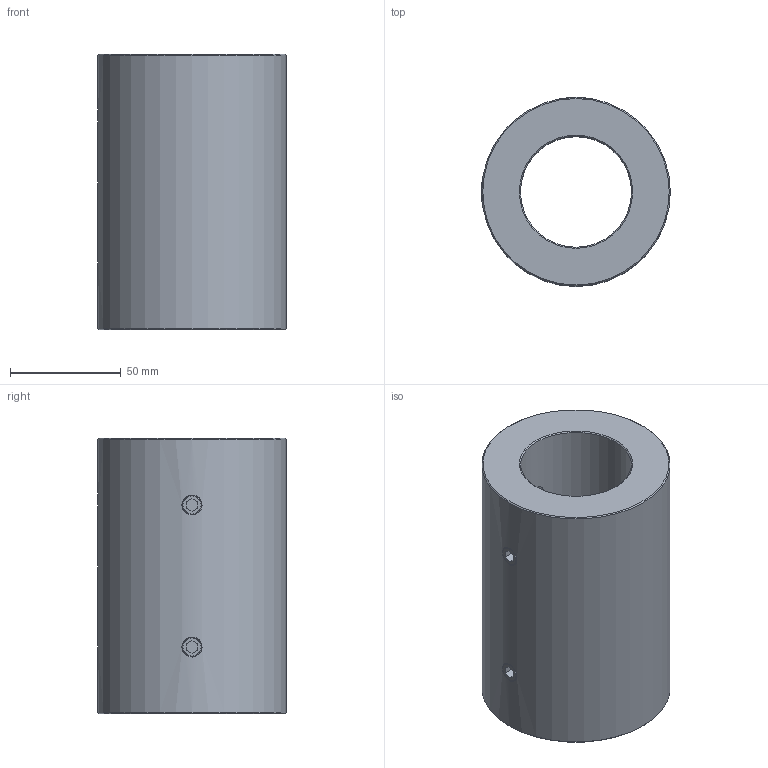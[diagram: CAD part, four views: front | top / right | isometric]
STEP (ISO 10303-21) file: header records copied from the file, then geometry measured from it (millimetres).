
FILE_DESCRIPTION (( 'STEP AP214' ), '1' );
FILE_NAME ('KBST1-VA-50.STEP', '2025-07-29T07:09:05', ( '' ), ( '' ), 'SwSTEP 2.0', 'SolidWorks 2024', '' );
FILE_SCHEMA (( 'AUTOMOTIVE_DESIGN' ));
Length unit declared in the file: millimetre
Products named in the file (1): KBST1-VA-50
Bounding box: 85 x 85 x 124 mm (x, y, z)
Volume: 454725.4 mm3; surface area: 63558.2 mm2
Topology: 5 solids, 5 shells, 80 faces, 178 edges, 104 vertices
Faces by surface type: plane 34, cone 28, cylinder 14, bspline 4
Full cylindrical faces by diameter (mm): 8.5 x4, 50 x1, 85 x1
Entity records: 8759 total; most frequent: CARTESIAN_POINT 6137, DIRECTION 338, ORIENTED_EDGE 312, EDGE_CURVE 156, AXIS2_PLACEMENT_3D 117, EDGE_LOOP 108, VERTEX_POINT 104, LINE 104
